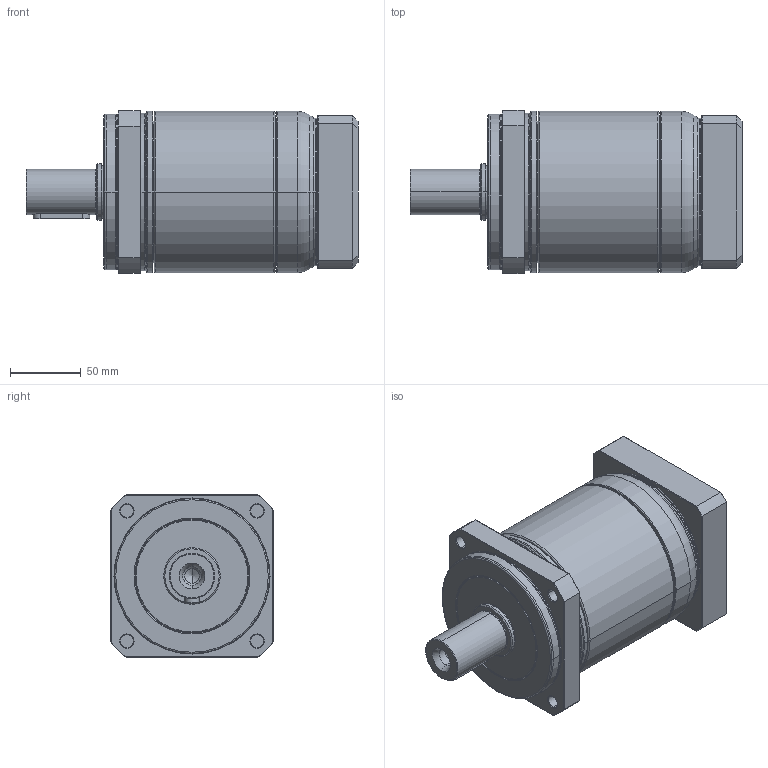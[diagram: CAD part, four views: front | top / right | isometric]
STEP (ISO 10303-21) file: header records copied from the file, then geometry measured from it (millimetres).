
FILE_DESCRIPTION((''),'2;1');
FILE_NAME('PA2-115_2ST_28-P0411600101_ASM','2016-05-11T',('d01943'),(''),'PRO/ENGINEER BY PARAMETRIC TECHNOLOGY CORPORATION, 2008410','PRO/ENGINEER BY PARAMETRIC TECHNOLOGY CORPORATION, 2008410','');
FILE_SCHEMA(('CONFIG_CONTROL_DESIGN'));
Length unit declared in the file: millimetre
Products named in the file (9): P1327410001; P0251400001; P1324400201; P0350400601; P0941402001; P0503600008; P0411600101; P1702500001; PA2-115_2ST_28-P0411600101_ASM
Assembly tree (8 placements, depth 2):
  PA2-115_2ST_28-P0411600101_ASM
    P1327410001
    P0251400001
    P1324400201
    P0350400601
    P0941402001
    P0503600008
    P0411600101
    P1702500001
Bounding box: 234.5 x 115 x 115 mm (x, y, z)
Volume: 1312033.9 mm3; surface area: 243766.7 mm2
Topology: 8 solids, 8 shells, 478 faces, 1042 edges, 600 vertices
Faces by surface type: cone 148, cylinder 135, torus 92, plane 87, bspline 16
Entity records: 17730 total; most frequent: CARTESIAN_POINT 6991, DIRECTION 2436, ORIENTED_EDGE 2044, AXIS2_PLACEMENT_3D 1040, EDGE_CURVE 1022, VERTEX_POINT 600, CIRCLE 561, EDGE_LOOP 542
